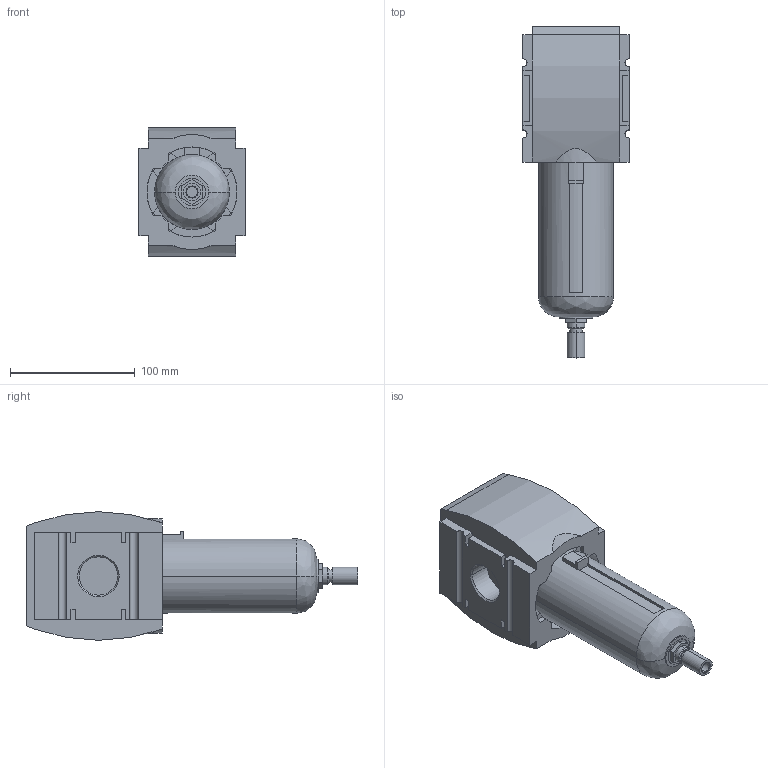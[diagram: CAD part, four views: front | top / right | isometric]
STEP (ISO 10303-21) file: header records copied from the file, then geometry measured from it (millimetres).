
FILE_DESCRIPTION((''),'2;1');
FILE_NAME('R412009028_ASM','2019-08-27T',('PDH2HC'),(''),'CREO PARAMETRIC BY PTC INC, 2016260','CREO PARAMETRIC BY PTC INC, 2016260','');
FILE_SCHEMA(('CONFIG_CONTROL_DESIGN'));
Length unit declared in the file: millimetre
Products named in the file (3): R412009028; AS5_RES_FILTER-FULLY; R412009028_ASM
Assembly tree (2 placements, depth 2):
  R412009028_ASM
    R412009028
    AS5_RES_FILTER-FULLY
Bounding box: 85 x 265.9 x 103 mm (x, y, z)
Volume: 1120878.4 mm3; surface area: 105663.1 mm2
Topology: 2 solids, 2 shells, 183 faces, 468 edges, 308 vertices
Faces by surface type: plane 129, cylinder 44, cone 8, bspline 2
Entity records: 5767 total; most frequent: CARTESIAN_POINT 1106, DIRECTION 966, ORIENTED_EDGE 936, EDGE_CURVE 468, VECTOR 338, LINE 338, AXIS2_PLACEMENT_3D 314, VERTEX_POINT 308
